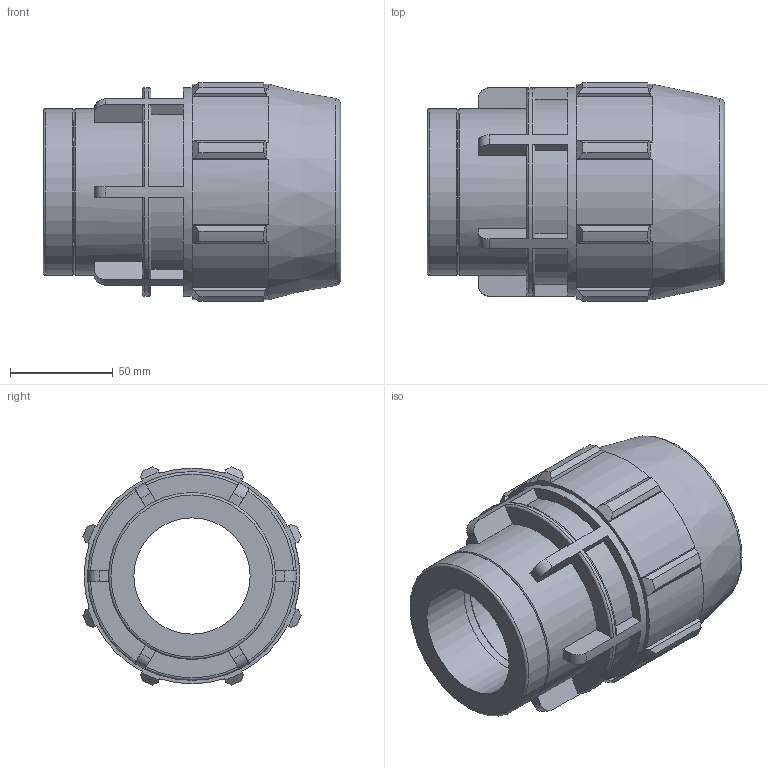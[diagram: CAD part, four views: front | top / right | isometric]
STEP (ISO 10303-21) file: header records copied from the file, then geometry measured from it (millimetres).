
FILE_DESCRIPTION(/* description */ ('PLASSON FEMALE ADAPTOR G 2'''' - 2''''F'),/* implementation_level */ '2;1');
FILE_NAME(/* name */ 'C:\Dropbox\KIMPROJECTS-Inventor 2019\99-16-3568-Processing Inch\ASTM Compression 2021\0703M0T\0703M0T20020.ipt.stp',/* time_stamp */ '2021-08-26T12:31:12+03:00',/* author */ ('KIM'),/* organization */ (''),/* preprocessor_version */ 'ST-DEVELOPER v17.2',/* originating_system */ 'Autodesk Inventor 2019',/* authorisation */ '');
FILE_SCHEMA (('AUTOMOTIVE_DESIGN { 1 0 10303 214 3 1 1 }'));
Length unit declared in the file: inch
Products named in the file (1): 0703M0T20020
Bounding box: 145.03 x 106.35 x 106.35 mm (x, y, z)
Volume: 615525.1 mm3; surface area: 90759.1 mm2
Topology: 1 solids, 1 shells, 155 faces, 441 edges, 298 vertices
Faces by surface type: plane 86, cylinder 28, cone 21, torus 20
Full cylindrical faces by diameter (mm): 56.656 x1, 57.095 x1, 60.1 x1, 81.382 x2, 101.727 x1
Entity records: 5648 total; most frequent: CARTESIAN_POINT 1379, ORIENTED_EDGE 882, DIRECTION 839, EDGE_CURVE 441, AXIS2_PLACEMENT_3D 310, VERTEX_POINT 298, LINE 219, VECTOR 219
